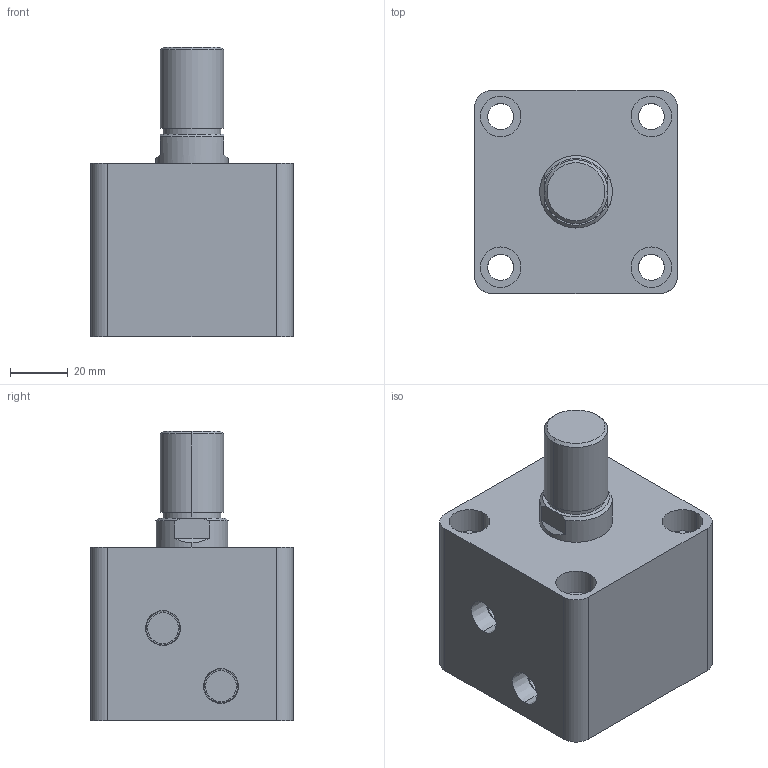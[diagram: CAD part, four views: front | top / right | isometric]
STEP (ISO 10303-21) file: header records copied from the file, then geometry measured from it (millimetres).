
FILE_DESCRIPTION (( 'STEP AP203' ), '1' );
FILE_NAME ('HTB-SD40-5W.STEP', '2019-10-07T06:44:17', ( '微软用户' ), ( '微软中国' ), 'SwSTEP 2.0', 'SolidWorks 2012', '' );
FILE_SCHEMA (( 'CONFIG_CONTROL_DESIGN' ));
Length unit declared in the file: millimetre
Products named in the file (3): HTB-SD40-5掛极; HTB-SD40-5W活塞杆; HTB-SD40-5W
Assembly tree (2 placements, depth 2):
  HTB-SD40-5W
    HTB-SD40-5掛极
    HTB-SD40-5W活塞杆
Bounding box: 70 x 70 x 100 mm (x, y, z)
Volume: 280528.1 mm3; surface area: 50662.9 mm2
Topology: 2 solids, 2 shells, 85 faces, 186 edges, 122 vertices
Faces by surface type: cylinder 44, plane 29, cone 8, torus 4
Entity records: 2709 total; most frequent: DIRECTION 466, CARTESIAN_POINT 426, ORIENTED_EDGE 372, AXIS2_PLACEMENT_3D 198, EDGE_CURVE 186, VERTEX_POINT 122, EDGE_LOOP 110, CIRCLE 108
